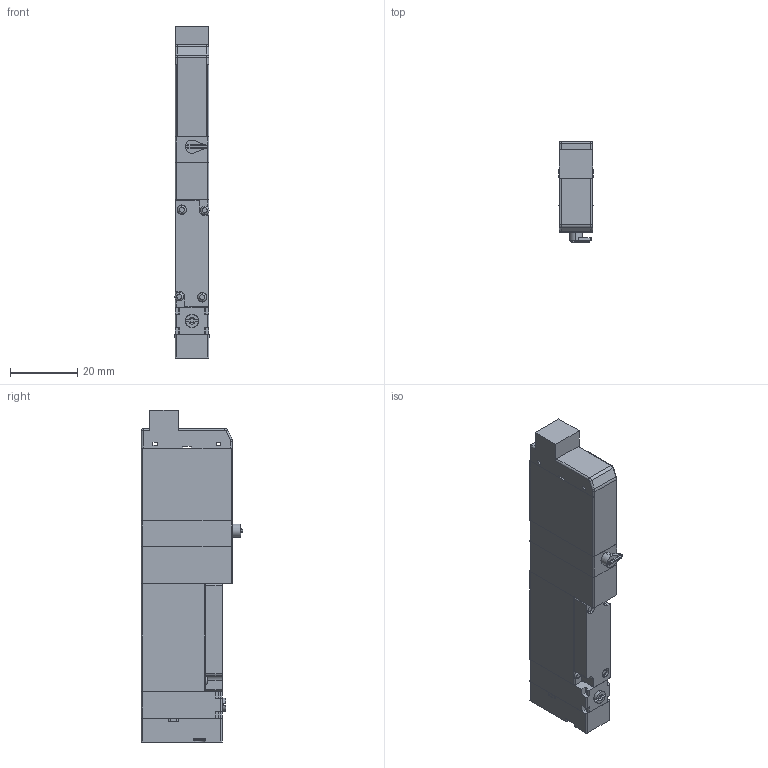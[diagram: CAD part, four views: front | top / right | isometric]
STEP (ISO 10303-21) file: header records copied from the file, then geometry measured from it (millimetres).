
FILE_DESCRIPTION( (''), '2;1');
FILE_NAME ('CVICAD02.13484.F10T2-R-A1-PN_6005.stp','2020-09-01T14:11:20',(''),(''),'spGate 12.6.6','','');
FILE_SCHEMA (('AUTOMOTIVE_DESIGN'));
Length unit declared in the file: millimetre
Products named in the file (8): Assembly; F10_Adptor; F10_Cap; F10T_Body; F_3PortBody-R; F_Connector-PN; F10_SwitchBlock; F10_A1
Assembly tree (7 placements, depth 2):
  Assembly
    F10_Adptor
    F10_Cap
    F10T_Body
    F_3PortBody-R
    F_Connector-PN
    F10_SwitchBlock
    F10_A1
Bounding box: 10.2 x 30 x 98.5 mm (x, y, z)
Volume: 23680.1 mm3; surface area: 11043 mm2
Topology: 7 solids, 7 shells, 260 faces, 656 edges, 422 vertices
Faces by surface type: plane 136, cylinder 96, bspline 22, sphere 6
Entity records: 13578 total; most frequent: CARTESIAN_POINT 1813, DIRECTION 1349, ORIENTED_EDGE 1300, COLOUR_RGB 917, PRESENTATION_STYLE_ASSIGNMENT 917, STYLED_ITEM 917, EDGE_CURVE 650, DRAUGHTING_PRE_DEFINED_CURVE_FONT 650
